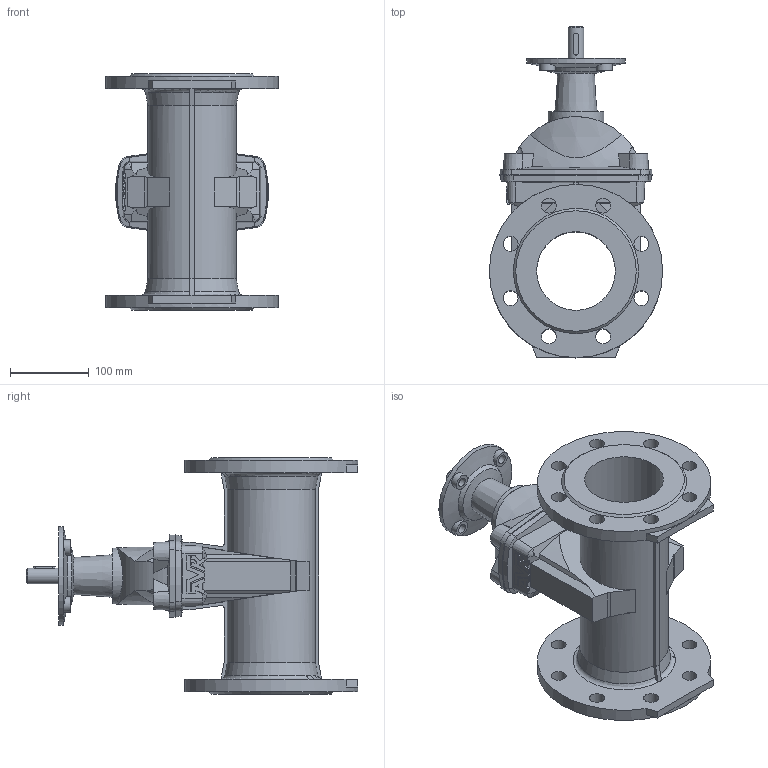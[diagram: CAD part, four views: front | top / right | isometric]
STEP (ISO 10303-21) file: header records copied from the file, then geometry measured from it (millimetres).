
FILE_DESCRIPTION (( 'STEP AP203' ), '1' );
FILE_NAME ('O_15_72_DN100_X1XXX099_AA0.step', '2017-03-10T08:52:46', ( 'Windows User' ), ( 'AVK' ), 'SwSTEP 2.0', 'SolidWorks 2012', '' );
FILE_SCHEMA (( 'CONFIG_CONTROL_DESIGN' ));
Length unit declared in the file: inch
Products named in the file (1): O_15_72_DN100_X1XXX099_AA0
Bounding box: 220 x 421.43 x 300 mm (x, y, z)
Volume: 3625186.8 mm3; surface area: 502654.1 mm2
Topology: 1 solids, 1 shells, 327 faces, 920 edges, 608 vertices
Faces by surface type: plane 143, cylinder 91, cone 89, torus 2, sphere 2
Full cylindrical faces by diameter (mm): 12 x4, 19 x16, 20 x5, 22 x1, 71 x1, 100 x1, 125 x1, 220 x2
Entity records: 11513 total; most frequent: CARTESIAN_POINT 3219, ORIENTED_EDGE 1698, DIRECTION 1686, EDGE_CURVE 849, AXIS2_PLACEMENT_3D 620, VERTEX_POINT 581, LINE 446, VECTOR 446
